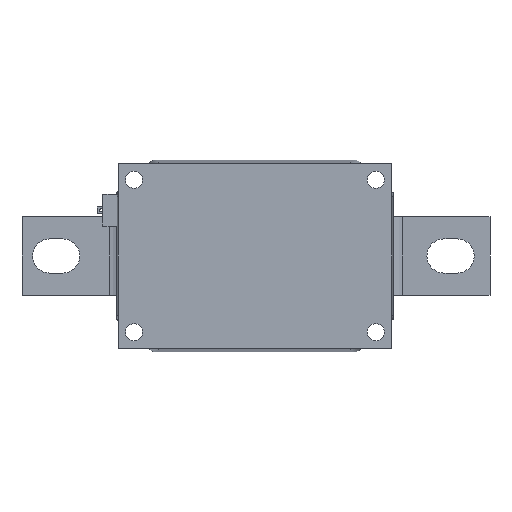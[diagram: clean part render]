
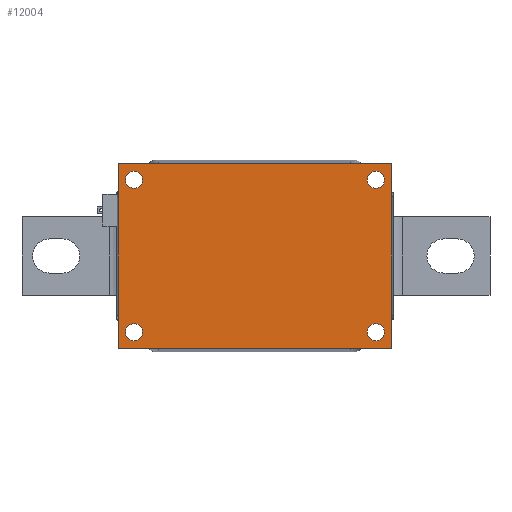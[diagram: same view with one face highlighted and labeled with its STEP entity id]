
A CAD part, front view. The second image highlights one B-rep face of the part: STEP entity #12004.
In plain terms, the highlighted planar face has unit normal (0, -1, 0).
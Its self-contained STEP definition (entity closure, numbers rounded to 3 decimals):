
#112 = AXIS2_PLACEMENT_3D ( 'NONE', #16531, #4954, #10062 ) ;
#206 = EDGE_LOOP ( 'NONE', ( #8965, #13338 ) ) ;
#294 = PLANE ( 'NONE',  #20293 ) ;
#417 = ORIENTED_EDGE ( 'NONE', *, *, #6581, .T. ) ;
#752 = DIRECTION ( 'NONE',  ( 0., 0., -1. ) ) ;
#816 = DIRECTION ( 'NONE',  ( -1., 0., 0. ) ) ;
#844 = VERTEX_POINT ( 'NONE', #9853 ) ;
#909 = AXIS2_PLACEMENT_3D ( 'NONE', #8068, #6444, #4648 ) ;
#1018 = VERTEX_POINT ( 'NONE', #16906 ) ;
#1140 = VERTEX_POINT ( 'NONE', #1589 ) ;
#1324 = VECTOR ( 'NONE', #816, 1000. ) ;
#1518 = VECTOR ( 'NONE', #16008, 1000. ) ;
#1540 = DIRECTION ( 'NONE',  ( 0., 1., 0. ) ) ;
#1589 = CARTESIAN_POINT ( 'NONE',  ( -46., 0., 32.25 ) ) ;
#1738 = DIRECTION ( 'NONE',  ( 0., 0., 1. ) ) ;
#2008 = EDGE_CURVE ( 'NONE', #12687, #3960, #19139, .T. ) ;
#2372 = CIRCLE ( 'NONE', #7351, 3.25 ) ;
#2643 = CARTESIAN_POINT ( 'NONE',  ( 46., 0., 32.25 ) ) ;
#2713 = DIRECTION ( 'NONE',  ( 0., 1., 0. ) ) ;
#2719 = VERTEX_POINT ( 'NONE', #8860 ) ;
#3423 = CARTESIAN_POINT ( 'NONE',  ( -46., 0., 29. ) ) ;
#3430 = CARTESIAN_POINT ( 'NONE',  ( 46., 0., -32.25 ) ) ;
#3798 = VECTOR ( 'NONE', #8004, 1000. ) ;
#3960 = VERTEX_POINT ( 'NONE', #12058 ) ;
#4347 = LINE ( 'NONE', #12648, #1518 ) ;
#4384 = FACE_BOUND ( 'NONE', #206, .T. ) ;
#4648 = DIRECTION ( 'NONE',  ( 0., 0., -1. ) ) ;
#4954 = DIRECTION ( 'NONE',  ( 0., 1., 0. ) ) ;
#5213 = EDGE_CURVE ( 'NONE', #19784, #1140, #8391, .T. ) ;
#5214 = EDGE_CURVE ( 'NONE', #17995, #2719, #7873, .T. ) ;
#5593 = EDGE_CURVE ( 'NONE', #2719, #17995, #2372, .T. ) ;
#6270 = CIRCLE ( 'NONE', #909, 3.25 ) ;
#6444 = DIRECTION ( 'NONE',  ( 0., 1., 0. ) ) ;
#6581 = EDGE_CURVE ( 'NONE', #1140, #19784, #6270, .T. ) ;
#6911 = CARTESIAN_POINT ( 'NONE',  ( -46., 0., -29. ) ) ;
#6916 = DIRECTION ( 'NONE',  ( 0., 0., 1. ) ) ;
#7140 = ORIENTED_EDGE ( 'NONE', *, *, #7807, .T. ) ;
#7351 = AXIS2_PLACEMENT_3D ( 'NONE', #11523, #1540, #1738 ) ;
#7433 = VERTEX_POINT ( 'NONE', #14060 ) ;
#7757 = FACE_BOUND ( 'NONE', #12397, .T. ) ;
#7807 = EDGE_CURVE ( 'NONE', #7433, #11869, #16367, .T. ) ;
#7873 = CIRCLE ( 'NONE', #16950, 3.25 ) ;
#8002 = EDGE_CURVE ( 'NONE', #1018, #12687, #4347, .T. ) ;
#8004 = DIRECTION ( 'NONE',  ( 1., 0., 0. ) ) ;
#8068 = CARTESIAN_POINT ( 'NONE',  ( -46., 0., 29. ) ) ;
#8103 = EDGE_LOOP ( 'NONE', ( #20123, #10138, #15440, #20400 ) ) ;
#8288 = FACE_BOUND ( 'NONE', #18057, .T. ) ;
#8391 = CIRCLE ( 'NONE', #11410, 3.25 ) ;
#8591 = DIRECTION ( 'NONE',  ( 0., 0., 1. ) ) ;
#8860 = CARTESIAN_POINT ( 'NONE',  ( 46., 0., 25.75 ) ) ;
#8965 = ORIENTED_EDGE ( 'NONE', *, *, #5593, .T. ) ;
#9242 = DIRECTION ( 'NONE',  ( 0., 0., 1. ) ) ;
#9853 = CARTESIAN_POINT ( 'NONE',  ( 52., 0., -35. ) ) ;
#10062 = DIRECTION ( 'NONE',  ( 0., 0., -1. ) ) ;
#10071 = DIRECTION ( 'NONE',  ( 0., 1., 0. ) ) ;
#10138 = ORIENTED_EDGE ( 'NONE', *, *, #2008, .F. ) ;
#10759 = CARTESIAN_POINT ( 'NONE',  ( -52., 0., -35. ) ) ;
#10761 = VERTEX_POINT ( 'NONE', #17052 ) ;
#11028 = CARTESIAN_POINT ( 'NONE',  ( -46., 0., 25.75 ) ) ;
#11092 = EDGE_LOOP ( 'NONE', ( #16545, #417 ) ) ;
#11345 = ORIENTED_EDGE ( 'NONE', *, *, #19393, .T. ) ;
#11410 = AXIS2_PLACEMENT_3D ( 'NONE', #3423, #18336, #16743 ) ;
#11468 = CIRCLE ( 'NONE', #112, 3.25 ) ;
#11523 = CARTESIAN_POINT ( 'NONE',  ( 46., 0., 29. ) ) ;
#11869 = VERTEX_POINT ( 'NONE', #21295 ) ;
#12004 = ADVANCED_FACE ( 'NONE', ( #16103, #8288, #7757, #4384, #16900 ), #294, .F. ) ;
#12058 = CARTESIAN_POINT ( 'NONE',  ( 52., 0., 35. ) ) ;
#12158 = CARTESIAN_POINT ( 'NONE',  ( -52., 0., 35. ) ) ;
#12397 = EDGE_LOOP ( 'NONE', ( #18995, #11345 ) ) ;
#12648 = CARTESIAN_POINT ( 'NONE',  ( -52., 0., -35. ) ) ;
#12671 = CARTESIAN_POINT ( 'NONE',  ( 46., 0., -29. ) ) ;
#12687 = VERTEX_POINT ( 'NONE', #12158 ) ;
#13103 = CARTESIAN_POINT ( 'NONE',  ( -52., 0., 35. ) ) ;
#13338 = ORIENTED_EDGE ( 'NONE', *, *, #5214, .T. ) ;
#13856 = EDGE_CURVE ( 'NONE', #3960, #844, #20324, .T. ) ;
#14060 = CARTESIAN_POINT ( 'NONE',  ( -46., 0., -25.75 ) ) ;
#14108 = DIRECTION ( 'NONE',  ( 0., 0., -1. ) ) ;
#14342 = AXIS2_PLACEMENT_3D ( 'NONE', #12671, #2713, #14108 ) ;
#14683 = AXIS2_PLACEMENT_3D ( 'NONE', #17451, #19030, #9242 ) ;
#14995 = CARTESIAN_POINT ( 'NONE',  ( 46., 0., 29. ) ) ;
#15238 = CARTESIAN_POINT ( 'NONE',  ( 0., 0., 0. ) ) ;
#15440 = ORIENTED_EDGE ( 'NONE', *, *, #8002, .F. ) ;
#15507 = CIRCLE ( 'NONE', #14342, 3.25 ) ;
#15792 = ORIENTED_EDGE ( 'NONE', *, *, #21089, .T. ) ;
#15910 = CARTESIAN_POINT ( 'NONE',  ( 52., 0., -35. ) ) ;
#16008 = DIRECTION ( 'NONE',  ( 0., 0., 1. ) ) ;
#16103 = FACE_OUTER_BOUND ( 'NONE', #8103, .T. ) ;
#16170 = LINE ( 'NONE', #10759, #1324 ) ;
#16233 = VERTEX_POINT ( 'NONE', #3430 ) ;
#16367 = CIRCLE ( 'NONE', #14683, 3.25 ) ;
#16531 = CARTESIAN_POINT ( 'NONE',  ( 46., 0., -29. ) ) ;
#16545 = ORIENTED_EDGE ( 'NONE', *, *, #5213, .T. ) ;
#16743 = DIRECTION ( 'NONE',  ( 0., 0., -1. ) ) ;
#16900 = FACE_BOUND ( 'NONE', #11092, .T. ) ;
#16906 = CARTESIAN_POINT ( 'NONE',  ( -52., 0., -35. ) ) ;
#16946 = EDGE_CURVE ( 'NONE', #844, #1018, #16170, .T. ) ;
#16950 = AXIS2_PLACEMENT_3D ( 'NONE', #14995, #20381, #8591 ) ;
#17052 = CARTESIAN_POINT ( 'NONE',  ( 46., 0., -25.75 ) ) ;
#17254 = VECTOR ( 'NONE', #752, 1000. ) ;
#17451 = CARTESIAN_POINT ( 'NONE',  ( -46., 0., -29. ) ) ;
#17995 = VERTEX_POINT ( 'NONE', #2643 ) ;
#18049 = EDGE_CURVE ( 'NONE', #16233, #10761, #15507, .T. ) ;
#18057 = EDGE_LOOP ( 'NONE', ( #15792, #7140 ) ) ;
#18336 = DIRECTION ( 'NONE',  ( 0., 1., 0. ) ) ;
#18487 = DIRECTION ( 'NONE',  ( 0., 0., 1. ) ) ;
#18707 = DIRECTION ( 'NONE',  ( 0., 1., 0. ) ) ;
#18995 = ORIENTED_EDGE ( 'NONE', *, *, #18049, .T. ) ;
#19030 = DIRECTION ( 'NONE',  ( 0., 1., 0. ) ) ;
#19106 = CIRCLE ( 'NONE', #20515, 3.25 ) ;
#19139 = LINE ( 'NONE', #13103, #3798 ) ;
#19393 = EDGE_CURVE ( 'NONE', #10761, #16233, #11468, .T. ) ;
#19784 = VERTEX_POINT ( 'NONE', #11028 ) ;
#20123 = ORIENTED_EDGE ( 'NONE', *, *, #13856, .F. ) ;
#20293 = AXIS2_PLACEMENT_3D ( 'NONE', #15238, #18707, #6916 ) ;
#20324 = LINE ( 'NONE', #15910, #17254 ) ;
#20381 = DIRECTION ( 'NONE',  ( 0., 1., 0. ) ) ;
#20400 = ORIENTED_EDGE ( 'NONE', *, *, #16946, .F. ) ;
#20515 = AXIS2_PLACEMENT_3D ( 'NONE', #6911, #10071, #18487 ) ;
#21089 = EDGE_CURVE ( 'NONE', #11869, #7433, #19106, .T. ) ;
#21295 = CARTESIAN_POINT ( 'NONE',  ( -46., 0., -32.25 ) ) ;
